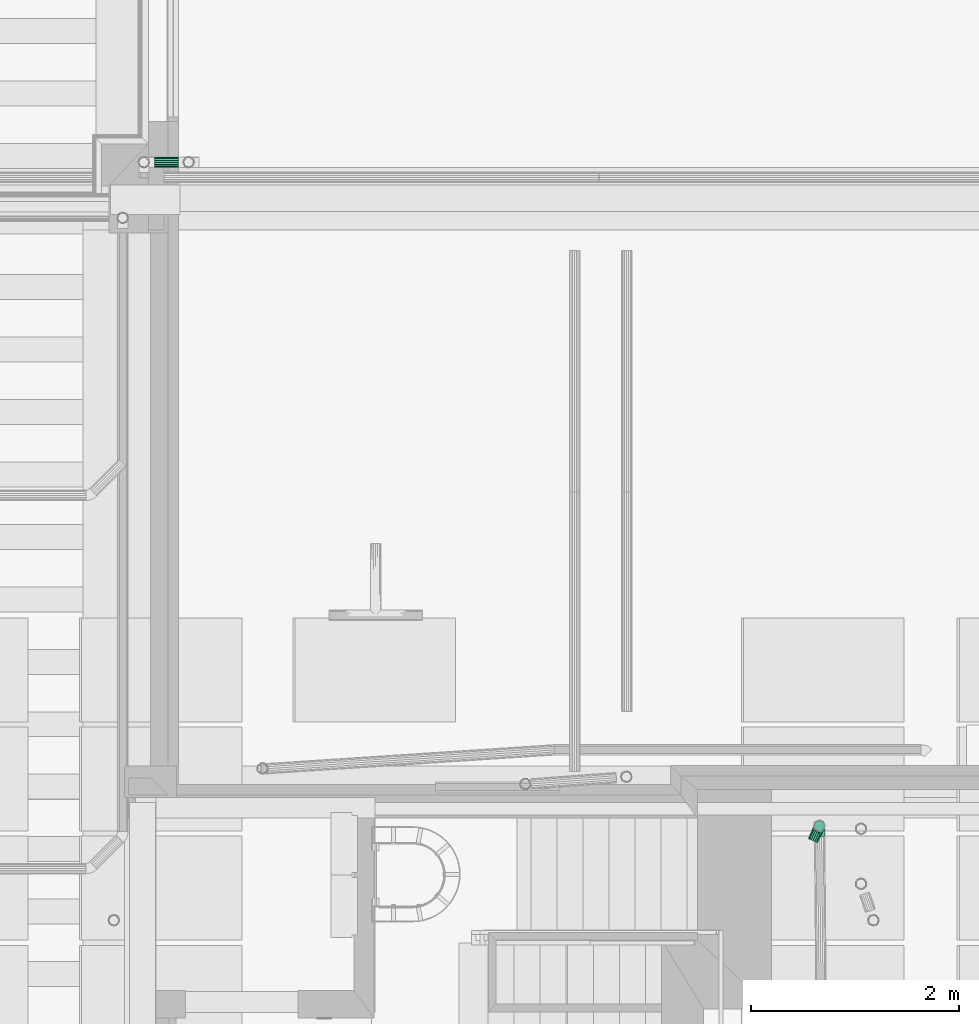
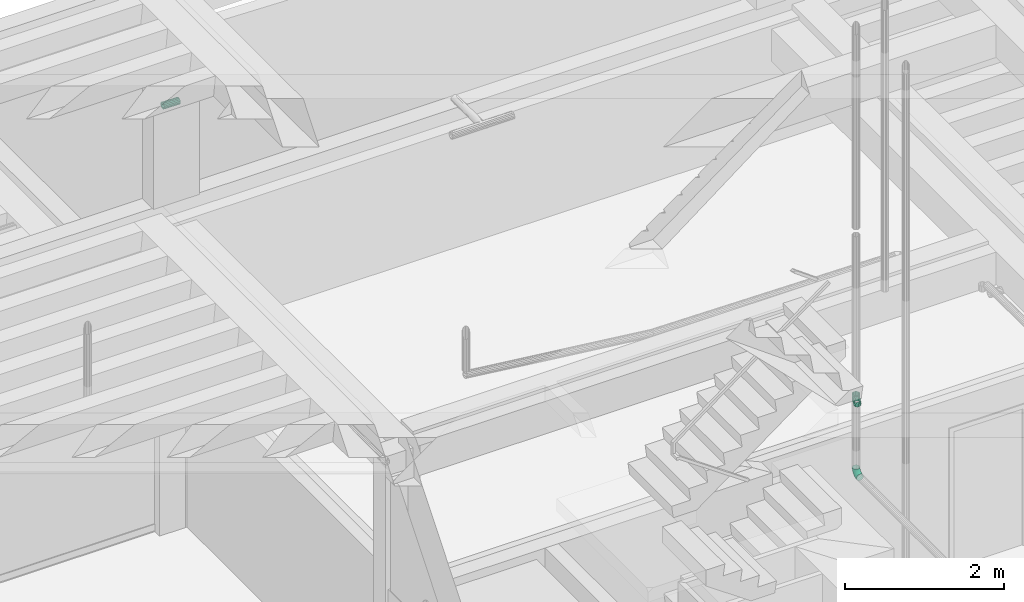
# One storey, part 87 of 106: 2 flow fittings, 2 flow segments.
"""IFC2X3 building model written with IfcOpenShell, lengths in metres."""

from ifc_helpers import new_model, entity, si_unit, converted_unit, derived_unit, money_unit, direction, frame, origin_with_axes, place, context, subcontext, project, spatial, open_shell, faceted_brep, surface_model, material, type_object, element, save


model = new_model("IFC2X3")

# Units and contexts
model_context = context("Model", 3, precision=1e-05, world=origin_with_axes(), true_north=direction((0.0, 1.0)))
body_context = subcontext(model_context, "Body", "Model", "MODEL_VIEW", scale=1.0)
ifc_project = project(units=[si_unit("LENGTHUNIT", "METRE"), si_unit("AREAUNIT", "SQUARE_METRE"), si_unit("VOLUMEUNIT", "CUBIC_METRE"), si_unit("ABSORBEDDOSEUNIT", "GRAY"), si_unit("AMOUNTOFSUBSTANCEUNIT", "MOLE"), si_unit("DOSEEQUIVALENTUNIT", "SIEVERT"), si_unit("ELECTRICCAPACITANCEUNIT", "FARAD"), si_unit("ELECTRICCHARGEUNIT", "COULOMB"), si_unit("ELECTRICCONDUCTANCEUNIT", "SIEMENS"), si_unit("ELECTRICCURRENTUNIT", "AMPERE"), si_unit("ELECTRICRESISTANCEUNIT", "OHM"), si_unit("ELECTRICVOLTAGEUNIT", "VOLT"), si_unit("ENERGYUNIT", "JOULE"), si_unit("FORCEUNIT", "NEWTON"), si_unit("FREQUENCYUNIT", "HERTZ"), si_unit("ILLUMINANCEUNIT", "LUX"), si_unit("INDUCTANCEUNIT", "HENRY"), si_unit("LUMINOUSFLUXUNIT", "LUMEN"), si_unit("LUMINOUSINTENSITYUNIT", "CANDELA"), si_unit("MAGNETICFLUXDENSITYUNIT", "TESLA"), si_unit("MAGNETICFLUXUNIT", "WEBER"), si_unit("MASSUNIT", "GRAM"), converted_unit("PLANEANGLEUNIT", "degree", entity("IfcReal", 0.0174532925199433), si_unit("PLANEANGLEUNIT", "RADIAN"), dimensions=[0, 0, 0, 0, 0, 0, 0]), si_unit("POWERUNIT", "WATT"), si_unit("PRESSUREUNIT", "PASCAL"), si_unit("RADIOACTIVITYUNIT", "BECQUEREL"), si_unit("SOLIDANGLEUNIT", "STERADIAN"), si_unit("THERMODYNAMICTEMPERATUREUNIT", "KELVIN"), si_unit("TIMEUNIT", "SECOND"), derived_unit("ACCELERATIONUNIT", [(si_unit("LENGTHUNIT", "METRE"), 1), (si_unit("TIMEUNIT", "SECOND"), -2)]), derived_unit("ANGULARVELOCITYUNIT", [(converted_unit("PLANEANGLEUNIT", "degree", entity("IfcReal", 0.0174532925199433), si_unit("PLANEANGLEUNIT", "RADIAN"), dimensions=[0, 0, 0, 0, 0, 0, 0]), 1), (si_unit("TIMEUNIT", "SECOND"), -1)]), derived_unit("CURVATUREUNIT", [(converted_unit("PLANEANGLEUNIT", "degree", entity("IfcReal", 0.0174532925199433), si_unit("PLANEANGLEUNIT", "RADIAN"), dimensions=[0, 0, 0, 0, 0, 0, 0]), 1), (si_unit("LENGTHUNIT", "METRE"), -1)]), derived_unit("DYNAMICVISCOSITYUNIT", [(si_unit("PRESSUREUNIT", "PASCAL"), 1), (si_unit("TIMEUNIT", "SECOND"), 1)]), derived_unit("HEATFLUXDENSITYUNIT", [(si_unit("POWERUNIT", "WATT"), 1), (si_unit("LENGTHUNIT", "METRE"), -2)]), derived_unit("HEATINGVALUEUNIT", [(si_unit("ENERGYUNIT", "JOULE"), 1), (si_unit("MASSUNIT", "GRAM"), -1)]), derived_unit("INTEGERCOUNTRATEUNIT", [(si_unit("TIMEUNIT", "SECOND"), -1)]), derived_unit("IONCONCENTRATIONUNIT", [(si_unit("MASSUNIT", "GRAM"), 1), (si_unit("VOLUMEUNIT", "CUBIC_METRE"), -1)]), derived_unit("ISOTHERMALMOISTURECAPACITYUNIT", [(si_unit("VOLUMEUNIT", "CUBIC_METRE"), 1), (si_unit("MASSUNIT", "GRAM"), -1)]), derived_unit("KINEMATICVISCOSITYUNIT", [(si_unit("AREAUNIT", "SQUARE_METRE"), 1), (si_unit("TIMEUNIT", "SECOND"), -1)]), derived_unit("LINEARFORCEUNIT", [(si_unit("FORCEUNIT", "NEWTON"), 1), (si_unit("LENGTHUNIT", "METRE"), -1)]), derived_unit("LINEARMOMENTUNIT", [(si_unit("FORCEUNIT", "NEWTON"), 1), (si_unit("LENGTHUNIT", "METRE"), -1)]), derived_unit("LINEARSTIFFNESSUNIT", [(si_unit("FORCEUNIT", "NEWTON"), 1), (si_unit("LENGTHUNIT", "METRE"), -1)]), derived_unit("LINEARVELOCITYUNIT", [(si_unit("LENGTHUNIT", "METRE"), 1), (si_unit("TIMEUNIT", "SECOND"), -1)]), derived_unit("LUMINOUSINTENSITYDISTRIBUTIONUNIT", [(si_unit("LUMINOUSINTENSITYUNIT", "CANDELA"), 1), (si_unit("LUMINOUSFLUXUNIT", "LUMEN"), -1)]), derived_unit("MASSDENSITYUNIT", [(si_unit("MASSUNIT", "GRAM"), 1), (si_unit("VOLUMEUNIT", "CUBIC_METRE"), -1)]), derived_unit("MASSFLOWRATEUNIT", [(si_unit("MASSUNIT", "GRAM"), 1), (si_unit("TIMEUNIT", "SECOND"), -1)]), derived_unit("MASSPERLENGTHUNIT", [(si_unit("MASSUNIT", "GRAM"), 1), (si_unit("LENGTHUNIT", "METRE"), -1)]), derived_unit("MODULUSOFELASTICITYUNIT", [(si_unit("FORCEUNIT", "NEWTON"), 1), (si_unit("AREAUNIT", "SQUARE_METRE"), -1)]), derived_unit("MODULUSOFLINEARSUBGRADEREACTIONUNIT", [(si_unit("FORCEUNIT", "NEWTON"), 1), (si_unit("LENGTHUNIT", "METRE"), -2)]), derived_unit("MODULUSOFROTATIONALSUBGRADEREACTIONUNIT", [(si_unit("FORCEUNIT", "NEWTON"), 1), (si_unit("LENGTHUNIT", "METRE"), 1)]), derived_unit("MODULUSOFSUBGRADEREACTIONUNIT", [(si_unit("FORCEUNIT", "NEWTON"), 1), (si_unit("VOLUMEUNIT", "CUBIC_METRE"), -1)]), derived_unit("MOISTUREDIFFUSIVITYUNIT", [(si_unit("VOLUMEUNIT", "CUBIC_METRE"), 1), (si_unit("TIMEUNIT", "SECOND"), -1)]), derived_unit("MOLECULARWEIGHTUNIT", [(si_unit("MASSUNIT", "GRAM"), 1), (si_unit("AMOUNTOFSUBSTANCEUNIT", "MOLE"), -1)]), derived_unit("PLANARFORCEUNIT", [(si_unit("FORCEUNIT", "NEWTON"), 1), (si_unit("LENGTHUNIT", "METRE"), -2)]), derived_unit("ROTATIONALFREQUENCYUNIT", [(si_unit("TIMEUNIT", "SECOND"), -1)]), derived_unit("ROTATIONALMASSUNIT", [(si_unit("MASSUNIT", "GRAM"), 1), (si_unit("LENGTHUNIT", "METRE"), 2)]), derived_unit("ROTATIONALSTIFFNESSUNIT", [(si_unit("FORCEUNIT", "NEWTON"), 1), (si_unit("LENGTHUNIT", "METRE"), 1), (converted_unit("PLANEANGLEUNIT", "degree", entity("IfcReal", 0.0174532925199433), si_unit("PLANEANGLEUNIT", "RADIAN"), dimensions=[0, 0, 0, 0, 0, 0, 0]), -1)]), derived_unit("SECTIONAREAINTEGRALUNIT", [(si_unit("LENGTHUNIT", "METRE"), 5)]), derived_unit("SECTIONMODULUSUNIT", [(si_unit("LENGTHUNIT", "METRE"), 3)]), derived_unit("SHEARMODULUSUNIT", [(si_unit("FORCEUNIT", "NEWTON"), 1), (si_unit("AREAUNIT", "SQUARE_METRE"), -1)]), derived_unit("SOUNDPOWERUNIT", [(si_unit("ENERGYUNIT", "JOULE"), 1), (si_unit("TIMEUNIT", "SECOND"), -1)]), derived_unit("SPECIFICHEATCAPACITYUNIT", [(si_unit("FORCEUNIT", "NEWTON"), 1), (si_unit("MASSUNIT", "GRAM"), -1), (si_unit("THERMODYNAMICTEMPERATUREUNIT", "KELVIN"), -1)]), derived_unit("TEMPERATUREGRADIENTUNIT", [(si_unit("THERMODYNAMICTEMPERATUREUNIT", "KELVIN"), 1), (si_unit("LENGTHUNIT", "METRE"), -1)]), derived_unit("THERMALADMITTANCEUNIT", [(si_unit("POWERUNIT", "WATT"), 1), (si_unit("AREAUNIT", "SQUARE_METRE"), -1), (si_unit("THERMODYNAMICTEMPERATUREUNIT", "KELVIN"), -1)]), derived_unit("THERMALCONDUCTANCEUNIT", [(si_unit("POWERUNIT", "WATT"), 1), (si_unit("LENGTHUNIT", "METRE"), -1), (si_unit("THERMODYNAMICTEMPERATUREUNIT", "KELVIN"), -1)]), derived_unit("THERMALEXPANSIONCOEFFICIENTUNIT", [(si_unit("THERMODYNAMICTEMPERATUREUNIT", "KELVIN"), -1)]), derived_unit("THERMALRESISTANCEUNIT", [(si_unit("AREAUNIT", "SQUARE_METRE"), 1), (si_unit("POWERUNIT", "WATT"), -1)]), derived_unit("THERMALTRANSMITTANCEUNIT", [(si_unit("POWERUNIT", "WATT"), 1), (si_unit("AREAUNIT", "SQUARE_METRE"), -1), (si_unit("THERMODYNAMICTEMPERATUREUNIT", "KELVIN"), -1)]), derived_unit("TORQUEUNIT", [(si_unit("FORCEUNIT", "NEWTON"), 1), (si_unit("LENGTHUNIT", "METRE"), 1)]), derived_unit("VAPORPERMEABILITYUNIT", [(si_unit("MASSUNIT", "GRAM"), 1), (si_unit("TIMEUNIT", "SECOND"), -1)]), derived_unit("VOLUMETRICFLOWRATEUNIT", [(si_unit("VOLUMEUNIT", "CUBIC_METRE"), 1), (si_unit("TIMEUNIT", "SECOND"), -1)]), derived_unit("WARPINGCONSTANTUNIT", [(si_unit("LENGTHUNIT", "METRE"), 6)]), derived_unit("WARPINGMOMENTUNIT", [(si_unit("FORCEUNIT", "NEWTON"), 1), (si_unit("LENGTHUNIT", "METRE"), 2)]), money_unit("GBP")], contexts=[model_context])

# Site, building, storey
site_placement = place(None, origin_with_axes())
site = spatial("IfcSite", under=ifc_project, at=site_placement, Name="Site", CompositionType="ELEMENT")
building_placement = place(site_placement, origin_with_axes())
building = spatial("IfcBuilding", under=site, at=building_placement, Name="Building01", CompositionType="ELEMENT")
storey_placement = place(building_placement, origin_with_axes())
storey = spatial("IfcBuildingStorey", under=building, at=storey_placement, Name="GF", CompositionType="ELEMENT", Elevation=0.0)

# Flow segments
ifc_material_1 = material(Name="M_BSUK_Ventilation")
duct_segment_type = type_object("IfcDuctSegmentType", Name="M-RoundDuct", PredefinedType="RIGIDSEGMENT")
flow_segment_1_placement = place(storey_placement, frame((15.541302, 8.430558, 3.399648), z_axis=(0.0, 0.0, -1.0), x_axis=(0.40708484, 0.91339035, 0.0)))
element("IfcFlowSegment", 1, at=flow_segment_1_placement, inside=storey, type_object=duct_segment_type, material=ifc_material_1, Name="M-RoundDuct", ObjectType="M-RoundDuct", context=body_context, shape_type="Brep", body=[
    faceted_brep([(0.1, 0.0, -0.05), (0.0, 0.0, -0.05), (0.0, 0.019134, -0.046194), (0.1, 0.019134, -0.046194), (0.0, 0.035355, -0.035355), (0.1, 0.035355, -0.035355), (0.0, 0.046194, -0.019134), (0.1, 0.046194, -0.019134), (0.0, 0.05, 0.0), (0.1, 0.05, 0.0), (0.0, 0.046194, 0.019134), (0.1, 0.046194, 0.019134), (0.0, 0.035355, 0.035355), (0.1, 0.035355, 0.035355), (0.0, 0.019134, 0.046194), (0.1, 0.019134, 0.046194), (0.0, 0.0, 0.05), (0.1, 0.0, 0.05), (0.0, -0.019134, 0.046194), (0.1, -0.019134, 0.046194), (0.0, -0.035355, 0.035355), (0.1, -0.035355, 0.035355), (0.0, -0.046194, 0.019134), (0.1, -0.046194, 0.019134), (0.0, -0.05, 0.0), (0.1, -0.05, 0.0), (0.0, -0.046194, -0.019134), (0.1, -0.046194, -0.019134), (0.0, -0.035355, -0.035355), (0.1, -0.035355, -0.035355), (0.0, -0.019134, -0.046194), (0.1, -0.019134, -0.046194)], [[[0, 1, 2, 3]], [[3, 2, 4, 5]], [[5, 4, 6, 7]], [[7, 6, 8, 9]], [[9, 8, 10, 11]], [[11, 10, 12, 13]], [[13, 12, 14, 15]], [[15, 14, 16, 17]], [[17, 16, 18, 19]], [[19, 18, 20, 21]], [[21, 20, 22, 23]], [[23, 22, 24, 25]], [[25, 24, 26, 27]], [[27, 26, 28, 29]], [[29, 28, 30, 31]], [[31, 30, 1, 0]]]),
])
ifc_material_2 = material(Name="M_BSUK_ColdWater")
pipe_segment_type = type_object("IfcPipeSegmentType", Name="M-BmpStraightpipe-DefaultPipe", PredefinedType="RIGIDSEGMENT")
flow_segment_2_placement = place(storey_placement, frame((9.210744, 14.95, 6.24673), z_axis=(0.0, 1.0, 0.0), x_axis=(0.99980004, 0.0, -0.01999682)))
element("IfcFlowSegment", 2, at=flow_segment_2_placement, inside=storey, type_object=pipe_segment_type, material=ifc_material_2, Name="M-BmpStraightpipe-DefaultPipe", ObjectType="M-BmpStraightpipe-DefaultPipe", context=body_context, shape_type="Brep", body=[
    faceted_brep([(0.234392, 0.0, -0.05), (0.0, 0.0, -0.05), (0.0, 0.019134, -0.046194), (0.234392, 0.019134, -0.046194), (0.0, 0.035355, -0.035355), (0.234392, 0.035355, -0.035355), (0.0, 0.046194, -0.019134), (0.234392, 0.046194, -0.019134), (0.0, 0.05, 0.0), (0.234392, 0.05, 0.0), (0.0, 0.046194, 0.019134), (0.234392, 0.046194, 0.019134), (0.0, 0.035355, 0.035355), (0.234392, 0.035355, 0.035355), (0.0, 0.019134, 0.046194), (0.234392, 0.019134, 0.046194), (0.0, 0.0, 0.05), (0.234392, 0.0, 0.05), (0.0, -0.019134, 0.046194), (0.234392, -0.019134, 0.046194), (0.0, -0.035355, 0.035355), (0.234392, -0.035355, 0.035355), (0.0, -0.046194, 0.019134), (0.234392, -0.046194, 0.019134), (0.0, -0.05, 0.0), (0.234392, -0.05, 0.0), (0.0, -0.046194, -0.019134), (0.234392, -0.046194, -0.019134), (0.0, -0.035355, -0.035355), (0.234392, -0.035355, -0.035355), (0.0, -0.019134, -0.046194), (0.234392, -0.019134, -0.046194)], [[[0, 1, 2, 3]], [[3, 2, 4, 5]], [[5, 4, 6, 7]], [[7, 6, 8, 9]], [[9, 8, 10, 11]], [[11, 10, 12, 13]], [[13, 12, 14, 15]], [[15, 14, 16, 17]], [[17, 16, 18, 19]], [[19, 18, 20, 21]], [[21, 20, 22, 23]], [[23, 22, 24, 25]], [[25, 24, 26, 27]], [[27, 26, 28, 29]], [[29, 28, 30, 31]], [[31, 30, 1, 0]]]),
])

# Space
space_placement = place(storey_placement, frame((9.419099, 6.725761, 0.0), z_axis=(0.0, 0.0, 1.0), x_axis=(0.0, -1.0, 0.0)))
space = spatial("IfcSpace", under=storey, at=space_placement, Name="ENTRANCE", CompositionType="ELEMENT", InteriorOrExteriorSpace="NOTDEFINED")

# Flow fittings
pipe_fitting_type_1 = type_object("IfcPipeFittingType", Name="M-BmpElbow-DefaultElbow", PredefinedType="BEND")
flow_fitting_1_placement = place(storey_placement, frame((15.604265, 8.57241, 2.325), z_axis=(-0.00898747, 0.99995961, 0.0), x_axis=(0.0, 0.0, -1.0)))
element("IfcFlowFitting", 3, at=flow_fitting_1_placement, inside=space, type_object=pipe_fitting_type_1, material=ifc_material_2, Name="M-BmpElbow-DefaultElbow", ObjectType="M-BmpElbow-DefaultElbow", context=body_context, shape_type="SurfaceModel", body=[
    surface_model("IfcShellBasedSurfaceModel", [(0.008048, -0.01349, -0.048774), (0.0, -0.01349, -0.048146), (0.0, 0.0, -0.05), (0.00776, 0.0, -0.050606), (0.0159, -0.01349, -0.050644), (0.015332, 0.0, -0.052409), (0.023368, -0.01349, -0.05371), (0.022532, 0.0, -0.055365), (0.030269, -0.01349, -0.057897), (0.029187, 0.0, -0.059403), (0.036437, -0.01349, -0.063105), (0.035134, 0.0, -0.064424), (0.041721, -0.01349, -0.069207), (0.040229, 0.0, -0.070308), (0.045995, -0.01349, -0.076055), (0.04435, 0.0, -0.076912), (0.049154, -0.01349, -0.083484), (0.047396, 0.0, -0.084074), (0.051121, -0.01349, -0.091313), (0.049293, 0.0, -0.091623), (0.05185, -0.01349, -0.099352), (0.049996, 0.0, -0.099375), (0.00889, -0.025979, -0.043415), (0.0, -0.025979, -0.042721), (0.017564, -0.025979, -0.04548), (0.025813, -0.025979, -0.048867), (0.033436, -0.025979, -0.053493), (0.040248, -0.025979, -0.059245), (0.046086, -0.025979, -0.065986), (0.050807, -0.025979, -0.07355), (0.054296, -0.025979, -0.081756), (0.056469, -0.025979, -0.090404), (0.057275, -0.025979, -0.099284), (0.010223, -0.036542, -0.034926), (0.0, -0.036542, -0.034128), (0.020199, -0.036542, -0.037301), (0.029685, -0.036542, -0.041196), (0.038452, -0.036542, -0.046515), (0.046287, -0.036542, -0.053131), (0.053, -0.036542, -0.060883), (0.058429, -0.036542, -0.069582), (0.062442, -0.036542, -0.079019), (0.064941, -0.036542, -0.088964), (0.065867, -0.036542, -0.099177), (0.01195, -0.044394, -0.023936), (0.0, -0.044394, -0.023003), (0.02361, -0.044394, -0.026712), (0.034698, -0.044394, -0.031265), (0.044946, -0.044394, -0.037483), (0.054104, -0.044394, -0.045216), (0.061951, -0.044394, -0.054277), (0.068296, -0.044394, -0.064445), (0.072987, -0.044394, -0.075476), (0.075908, -0.044394, -0.0871), (0.076991, -0.044394, -0.099038), (0.013941, -0.048954, -0.011261), (0.0, -0.048954, -0.010173), (0.027544, -0.048954, -0.0145), (0.04048, -0.048954, -0.019811), (0.052435, -0.048954, -0.027065), (0.063119, -0.048954, -0.036087), (0.072274, -0.048954, -0.046657), (0.079677, -0.048954, -0.058521), (0.085149, -0.048954, -0.071389), (0.088558, -0.048954, -0.084951), (0.08982, -0.048954, -0.098877), (0.01605, -0.049883, 0.002159), (0.0, -0.049883, 0.003412), (0.03171, -0.049883, -0.00157), (0.046602, -0.049883, -0.007684), (0.060365, -0.049883, -0.016035), (0.072665, -0.049883, -0.026421), (0.083204, -0.049883, -0.03859), (0.091727, -0.049883, -0.052247), (0.098026, -0.049883, -0.067062), (0.101951, -0.049883, -0.082675), (0.103404, -0.049883, -0.098707), (0.018119, -0.047113, 0.015329), (0.0, -0.047113, 0.016744), (0.035798, -0.047113, 0.01112), (0.05261, -0.047113, 0.004218), (0.068147, -0.047113, -0.00521), (0.082033, -0.047113, -0.016935), (0.093931, -0.047113, -0.030673), (0.103552, -0.047113, -0.046091), (0.110664, -0.047113, -0.062816), (0.115094, -0.047113, -0.080441), (0.116735, -0.047113, -0.098541), (0.019995, -0.040848, 0.027273), (0.0, -0.040848, 0.028834), (0.039505, -0.040848, 0.022628), (0.058059, -0.040848, 0.01501), (0.075205, -0.040848, 0.004606), (0.090528, -0.040848, -0.008333), (0.103658, -0.040848, -0.023494), (0.114276, -0.040848, -0.040508), (0.122124, -0.040848, -0.058965), (0.127013, -0.040848, -0.078416), (0.128824, -0.040848, -0.09839), (0.021539, -0.031554, 0.037104), (0.0, -0.031554, 0.038786), (0.042557, -0.031554, 0.0321), (0.062543, -0.031554, 0.023894), (0.081014, -0.031554, 0.012686), (0.097521, -0.031554, -0.001252), (0.111665, -0.031554, -0.017584), (0.123103, -0.031554, -0.035913), (0.131557, -0.031554, -0.055795), (0.136824, -0.031554, -0.076749), (0.138775, -0.031554, -0.098265), (0.022638, -0.01992, 0.044093), (0.0, -0.01992, 0.045861), (0.044726, -0.01992, 0.038834), (0.065732, -0.01992, 0.03021), (0.085144, -0.01992, 0.018431), (0.102492, -0.01992, 0.003782), (0.117357, -0.01992, -0.013383), (0.129378, -0.01992, -0.032646), (0.138264, -0.01992, -0.053542), (0.143799, -0.01992, -0.075563), (0.145849, -0.01992, -0.098177), (0.023208, -0.006808, 0.047722), (0.0, -0.006808, 0.049534), (0.045853, -0.006808, 0.042331), (0.067387, -0.006808, 0.03349), (0.087288, -0.006808, 0.021414), (0.105074, -0.006808, 0.006395), (0.120313, -0.006808, -0.011201), (0.132637, -0.006808, -0.03095), (0.141746, -0.006808, -0.052372), (0.147421, -0.006808, -0.074948), (0.149523, -0.006808, -0.098131), (0.023208, 0.006808, 0.047722), (0.0, 0.006808, 0.049534), (0.045853, 0.006808, 0.042331), (0.067387, 0.006808, 0.03349), (0.087288, 0.006808, 0.021414), (0.105074, 0.006808, 0.006395), (0.120313, 0.006808, -0.011201), (0.132637, 0.006808, -0.03095), (0.141746, 0.006808, -0.052372), (0.147421, 0.006808, -0.074948), (0.149523, 0.006808, -0.098131), (0.022638, 0.01992, 0.044093), (0.0, 0.01992, 0.045861), (0.044726, 0.01992, 0.038834), (0.065732, 0.01992, 0.03021), (0.085144, 0.01992, 0.018431), (0.102492, 0.01992, 0.003782), (0.117357, 0.01992, -0.013383), (0.129378, 0.01992, -0.032646), (0.138264, 0.01992, -0.053542), (0.143799, 0.01992, -0.075563), (0.145849, 0.01992, -0.098177), (0.021539, 0.031554, 0.037104), (0.0, 0.031554, 0.038786), (0.042557, 0.031554, 0.0321), (0.062543, 0.031554, 0.023894), (0.081014, 0.031554, 0.012686), (0.097521, 0.031554, -0.001252), (0.111665, 0.031554, -0.017584), (0.123103, 0.031554, -0.035913), (0.131557, 0.031554, -0.055795), (0.136824, 0.031554, -0.076749), (0.138775, 0.031554, -0.098265), (0.019995, 0.040848, 0.027273), (0.0, 0.040848, 0.028834), (0.039505, 0.040848, 0.022628), (0.058059, 0.040848, 0.01501), (0.075205, 0.040848, 0.004606), (0.090528, 0.040848, -0.008333), (0.103658, 0.040848, -0.023494), (0.114276, 0.040848, -0.040508), (0.122124, 0.040848, -0.058965), (0.127013, 0.040848, -0.078416), (0.128824, 0.040848, -0.09839), (0.018119, 0.047113, 0.015329), (0.0, 0.047113, 0.016744), (0.035798, 0.047113, 0.01112), (0.05261, 0.047113, 0.004218), (0.068147, 0.047113, -0.00521), (0.082033, 0.047113, -0.016935), (0.093931, 0.047113, -0.030673), (0.103552, 0.047113, -0.046091), (0.110664, 0.047113, -0.062816), (0.115094, 0.047113, -0.080441), (0.116735, 0.047113, -0.098541), (0.01605, 0.049883, 0.002159), (0.0, 0.049883, 0.003412), (0.03171, 0.049883, -0.00157), (0.046602, 0.049883, -0.007684), (0.060365, 0.049883, -0.016035), (0.072665, 0.049883, -0.026421), (0.083204, 0.049883, -0.03859), (0.091727, 0.049883, -0.052247), (0.098026, 0.049883, -0.067062), (0.101951, 0.049883, -0.082675), (0.103404, 0.049883, -0.098707), (0.013941, 0.048954, -0.011261), (0.0, 0.048954, -0.010173), (0.027544, 0.048954, -0.0145), (0.04048, 0.048954, -0.019811), (0.052435, 0.048954, -0.027065), (0.063119, 0.048954, -0.036087), (0.072274, 0.048954, -0.046657), (0.079677, 0.048954, -0.058521), (0.085149, 0.048954, -0.071389), (0.088558, 0.048954, -0.084951), (0.08982, 0.048954, -0.098877), (0.01195, 0.044394, -0.023936), (0.0, 0.044394, -0.023003), (0.02361, 0.044394, -0.026712), (0.034698, 0.044394, -0.031265), (0.044946, 0.044394, -0.037483), (0.054104, 0.044394, -0.045216), (0.061951, 0.044394, -0.054277), (0.068296, 0.044394, -0.064445), (0.072987, 0.044394, -0.075476), (0.075908, 0.044394, -0.0871), (0.076991, 0.044394, -0.099038), (0.010223, 0.036542, -0.034926), (0.0, 0.036542, -0.034128), (0.020199, 0.036542, -0.037301), (0.029685, 0.036542, -0.041196), (0.038452, 0.036542, -0.046515), (0.046287, 0.036542, -0.053131), (0.053, 0.036542, -0.060883), (0.058429, 0.036542, -0.069582), (0.062442, 0.036542, -0.079019), (0.064941, 0.036542, -0.088964), (0.065867, 0.036542, -0.099177), (0.00889, 0.025979, -0.043415), (0.0, 0.025979, -0.042721), (0.017564, 0.025979, -0.04548), (0.025813, 0.025979, -0.048867), (0.033436, 0.025979, -0.053493), (0.040248, 0.025979, -0.059245), (0.046086, 0.025979, -0.065986), (0.050807, 0.025979, -0.07355), (0.054296, 0.025979, -0.081756), (0.056469, 0.025979, -0.090404), (0.057275, 0.025979, -0.099284), (0.008048, 0.01349, -0.048774), (0.0, 0.01349, -0.048146), (0.0159, 0.01349, -0.050644), (0.023368, 0.01349, -0.05371), (0.030269, 0.01349, -0.057897), (0.036437, 0.01349, -0.063105), (0.041721, 0.01349, -0.069207), (0.045995, 0.01349, -0.076055), (0.049154, 0.01349, -0.083484), (0.051121, 0.01349, -0.091313), (0.05185, 0.01349, -0.099352)], [open_shell([[[0, 1, 2, 3]], [[4, 0, 3, 5]], [[6, 4, 5, 7]], [[8, 6, 7, 9]], [[10, 8, 9, 11]], [[12, 10, 11, 13]], [[14, 12, 13, 15]], [[16, 14, 15, 17]], [[18, 16, 17, 19]], [[20, 18, 19, 21]], [[22, 23, 1, 0]], [[24, 22, 0, 4]], [[25, 24, 4, 6]], [[26, 25, 6, 8]], [[27, 26, 8, 10]], [[28, 27, 10, 12]], [[29, 28, 12, 14]], [[30, 29, 14, 16]], [[31, 30, 16, 18]], [[32, 31, 18, 20]], [[33, 34, 23, 22]], [[35, 33, 22, 24]], [[36, 35, 24, 25]], [[37, 36, 25, 26]], [[38, 37, 26, 27]], [[39, 38, 27, 28]], [[40, 39, 28, 29]], [[41, 40, 29, 30]], [[42, 41, 30, 31]], [[43, 42, 31, 32]], [[44, 45, 34, 33]], [[46, 44, 33, 35]], [[47, 46, 35, 36]], [[48, 47, 36, 37]], [[49, 48, 37, 38]], [[50, 49, 38, 39]], [[51, 50, 39, 40]], [[52, 51, 40, 41]], [[53, 52, 41, 42]], [[54, 53, 42, 43]], [[55, 56, 45, 44]], [[57, 55, 44, 46]], [[58, 57, 46, 47]], [[59, 58, 47, 48]], [[60, 59, 48, 49]], [[61, 60, 49, 50]], [[62, 61, 50, 51]], [[63, 62, 51, 52]], [[64, 63, 52, 53]], [[65, 64, 53, 54]], [[66, 67, 56, 55]], [[68, 66, 55, 57]], [[69, 68, 57, 58]], [[70, 69, 58, 59]], [[71, 70, 59, 60]], [[72, 71, 60, 61]], [[73, 72, 61, 62]], [[74, 73, 62, 63]], [[75, 74, 63, 64]], [[76, 75, 64, 65]], [[77, 78, 67, 66]], [[79, 77, 66, 68]], [[80, 79, 68, 69]], [[81, 80, 69, 70]], [[82, 81, 70, 71]], [[83, 82, 71, 72]], [[84, 83, 72, 73]], [[85, 84, 73, 74]], [[86, 85, 74, 75]], [[87, 86, 75, 76]], [[88, 89, 78, 77]], [[90, 88, 77, 79]], [[91, 90, 79, 80]], [[92, 91, 80, 81]], [[93, 92, 81, 82]], [[94, 93, 82, 83]], [[95, 94, 83, 84]], [[96, 95, 84, 85]], [[97, 96, 85, 86]], [[98, 97, 86, 87]], [[99, 100, 89, 88]], [[101, 99, 88, 90]], [[102, 101, 90, 91]], [[103, 102, 91, 92]], [[104, 103, 92, 93]], [[105, 104, 93, 94]], [[106, 105, 94, 95]], [[107, 106, 95, 96]], [[108, 107, 96, 97]], [[109, 108, 97, 98]], [[110, 111, 100, 99]], [[112, 110, 99, 101]], [[113, 112, 101, 102]], [[114, 113, 102, 103]], [[115, 114, 103, 104]], [[116, 115, 104, 105]], [[117, 116, 105, 106]], [[118, 117, 106, 107]], [[119, 118, 107, 108]], [[120, 119, 108, 109]], [[121, 122, 111, 110]], [[123, 121, 110, 112]], [[124, 123, 112, 113]], [[125, 124, 113, 114]], [[126, 125, 114, 115]], [[127, 126, 115, 116]], [[128, 127, 116, 117]], [[129, 128, 117, 118]], [[130, 129, 118, 119]], [[131, 130, 119, 120]], [[132, 133, 122, 121]], [[134, 132, 121, 123]], [[135, 134, 123, 124]], [[136, 135, 124, 125]], [[137, 136, 125, 126]], [[138, 137, 126, 127]], [[139, 138, 127, 128]], [[140, 139, 128, 129]], [[141, 140, 129, 130]], [[142, 141, 130, 131]], [[143, 144, 133, 132]], [[145, 143, 132, 134]], [[146, 145, 134, 135]], [[147, 146, 135, 136]], [[148, 147, 136, 137]], [[149, 148, 137, 138]], [[150, 149, 138, 139]], [[151, 150, 139, 140]], [[152, 151, 140, 141]], [[153, 152, 141, 142]], [[154, 155, 144, 143]], [[156, 154, 143, 145]], [[157, 156, 145, 146]], [[158, 157, 146, 147]], [[159, 158, 147, 148]], [[160, 159, 148, 149]], [[161, 160, 149, 150]], [[162, 161, 150, 151]], [[163, 162, 151, 152]], [[164, 163, 152, 153]], [[165, 166, 155, 154]], [[167, 165, 154, 156]], [[168, 167, 156, 157]], [[169, 168, 157, 158]], [[170, 169, 158, 159]], [[171, 170, 159, 160]], [[172, 171, 160, 161]], [[173, 172, 161, 162]], [[174, 173, 162, 163]], [[175, 174, 163, 164]], [[176, 177, 166, 165]], [[178, 176, 165, 167]], [[179, 178, 167, 168]], [[180, 179, 168, 169]], [[181, 180, 169, 170]], [[182, 181, 170, 171]], [[183, 182, 171, 172]], [[184, 183, 172, 173]], [[185, 184, 173, 174]], [[186, 185, 174, 175]], [[187, 188, 177, 176]], [[189, 187, 176, 178]], [[190, 189, 178, 179]], [[191, 190, 179, 180]], [[192, 191, 180, 181]], [[193, 192, 181, 182]], [[194, 193, 182, 183]], [[195, 194, 183, 184]], [[196, 195, 184, 185]], [[197, 196, 185, 186]], [[198, 199, 188, 187]], [[200, 198, 187, 189]], [[201, 200, 189, 190]], [[202, 201, 190, 191]], [[203, 202, 191, 192]], [[204, 203, 192, 193]], [[205, 204, 193, 194]], [[206, 205, 194, 195]], [[207, 206, 195, 196]], [[208, 207, 196, 197]], [[209, 210, 199, 198]], [[211, 209, 198, 200]], [[212, 211, 200, 201]], [[213, 212, 201, 202]], [[214, 213, 202, 203]], [[215, 214, 203, 204]], [[216, 215, 204, 205]], [[217, 216, 205, 206]], [[218, 217, 206, 207]], [[219, 218, 207, 208]], [[220, 221, 210, 209]], [[222, 220, 209, 211]], [[223, 222, 211, 212]], [[224, 223, 212, 213]], [[225, 224, 213, 214]], [[226, 225, 214, 215]], [[227, 226, 215, 216]], [[228, 227, 216, 217]], [[229, 228, 217, 218]], [[230, 229, 218, 219]], [[231, 232, 221, 220]], [[233, 231, 220, 222]], [[234, 233, 222, 223]], [[235, 234, 223, 224]], [[236, 235, 224, 225]], [[237, 236, 225, 226]], [[238, 237, 226, 227]], [[239, 238, 227, 228]], [[240, 239, 228, 229]], [[241, 240, 229, 230]], [[242, 243, 232, 231]], [[244, 242, 231, 233]], [[245, 244, 233, 234]], [[246, 245, 234, 235]], [[247, 246, 235, 236]], [[248, 247, 236, 237]], [[249, 248, 237, 238]], [[250, 249, 238, 239]], [[251, 250, 239, 240]], [[252, 251, 240, 241]], [[3, 2, 243, 242]], [[5, 3, 242, 244]], [[7, 5, 244, 245]], [[9, 7, 245, 246]], [[11, 9, 246, 247]], [[13, 11, 247, 248]], [[15, 13, 248, 249]], [[17, 15, 249, 250]], [[19, 17, 250, 251]], [[21, 19, 251, 252]]])]),
])
pipe_fitting_type_2 = type_object("IfcPipeFittingType", Name="M-BmpTee-DefaultTee", PredefinedType="JUNCTION")
flow_fitting_2_placement = place(storey_placement, frame((15.604265, 8.57241, 3.349919), z_axis=(0.39563745, 0.91840678, 0.0), x_axis=(0.0, 0.0, 1.0)))
element("IfcFlowFitting", 4, at=flow_fitting_2_placement, inside=space, type_object=pipe_fitting_type_2, material=ifc_material_2, Name="M-BmpTee-DefaultTee", ObjectType="M-BmpTee-DefaultTee", context=body_context, shape_type="SurfaceModel", body=[
    surface_model("IfcShellBasedSurfaceModel", [(0.068757, 0.046194, -0.019134), (0.06921, 0.046194, -0.055386), (0.050077, 0.05, -0.055626), (0.085182, 0.035355, -0.035355), (0.08543, 0.035355, -0.055184), (0.096157, 0.019134, -0.046194), (0.096268, 0.019134, -0.055048), (0.099038, 0.009755, -0.049039), (0.100011, 0.0, -0.05), (0.100073, 0.0, -0.055001), (0.099038, -0.009755, -0.049039), (0.096157, -0.019134, -0.046194), (0.096268, -0.019134, -0.055048), (0.091478, -0.027779, -0.041573), (0.085182, -0.035355, -0.035355), (0.08543, -0.035355, -0.055184), (0.07751, -0.041573, -0.027779), (0.068757, -0.046194, -0.019134), (0.06921, -0.046194, -0.055386), (0.059259, -0.049039, -0.009755), (0.049382, -0.05, 0.0), (0.050077, -0.05, -0.055626), (0.030485, -0.046194, -0.019134), (0.030945, -0.046194, -0.055865), (0.014466, -0.035355, -0.035355), (0.014725, -0.035355, -0.056067), (0.003762, -0.019134, -0.046194), (0.003887, -0.019134, -0.056203), (0.000952, -0.009755, -0.049039), (3e-06, 0.0, -0.05), (8.1e-05, 0.0, -0.056251), (0.000952, 0.009755, -0.049039), (0.003762, 0.019134, -0.046194), (0.003887, 0.019134, -0.056203), (0.008325, 0.027779, -0.041573), (0.014466, 0.035355, -0.035355), (0.014725, 0.035355, -0.056067), (0.021948, 0.041573, -0.027779), (0.030485, 0.046194, -0.019134), (0.030945, 0.046194, -0.055865), (0.039749, 0.049039, -0.009755), (0.049382, 0.05, 0.0), (0.008325, -0.027779, -0.041573), (0.021948, -0.041573, -0.027779), (0.039749, -0.049039, -0.009755), (0.091478, 0.027779, -0.041573), (0.07751, 0.041573, -0.027779), (0.059259, 0.049039, -0.009755), (-0.005, -0.05, 0.0), (0.105012, -0.05, 0.0), (0.105012, -0.046194, 0.019134), (-0.005, -0.046194, 0.019134), (0.105012, -0.035355, 0.035355), (-0.005, -0.035355, 0.035355), (0.105012, -0.019134, 0.046194), (-0.005, -0.019134, 0.046194), (0.105012, 0.0, 0.05), (-0.005, 0.0, 0.05), (0.105012, 0.019134, 0.046194), (-0.005, 0.019134, 0.046194), (0.105012, 0.035355, 0.035355), (-0.005, 0.035355, 0.035355), (0.105012, 0.046194, 0.019134), (-0.005, 0.046194, 0.019134), (0.105012, 0.05, 0.0), (-0.005, 0.05, 0.0), (0.105012, -0.046194, -0.019134), (0.105012, -0.035355, -0.035355), (0.105012, -0.019134, -0.046194), (0.105012, 0.0, -0.05), (0.105012, 0.019134, -0.046194), (0.105012, 0.035355, -0.035355), (0.105012, 0.046194, -0.019134), (-0.005, 0.046194, -0.019134), (-0.005, 0.035355, -0.035355), (-0.005, 0.019134, -0.046194), (-0.005, 0.0, -0.05), (-0.005, -0.019134, -0.046194), (-0.005, -0.035355, -0.035355), (-0.005, -0.046194, -0.019134)], [open_shell([[[0, 1, 2]], [[3, 4, 1]], [[5, 6, 4]], [[7, 8, 9]], [[10, 11, 12]], [[13, 14, 15]], [[16, 17, 18]], [[19, 20, 21]], [[22, 23, 21]], [[24, 25, 23]], [[26, 27, 25]], [[28, 29, 30]], [[31, 32, 33]], [[34, 35, 36]], [[37, 38, 39]], [[40, 41, 2]], [[38, 40, 2]], [[2, 39, 38]], [[35, 37, 39]], [[39, 36, 35]], [[32, 34, 36]], [[36, 33, 32]], [[31, 33, 30]], [[30, 29, 31]], [[27, 26, 28]], [[30, 27, 28]], [[25, 24, 42]], [[25, 42, 26]], [[23, 22, 43]], [[23, 43, 24]], [[21, 20, 44]], [[21, 44, 22]], [[17, 19, 21]], [[21, 18, 17]], [[14, 16, 18]], [[18, 15, 14]], [[11, 13, 15]], [[15, 12, 11]], [[10, 12, 9]], [[9, 8, 10]], [[6, 5, 7]], [[9, 6, 7]], [[4, 3, 45]], [[4, 45, 5]], [[1, 0, 46]], [[1, 46, 3]], [[2, 41, 47]], [[2, 47, 0]], [[48, 20, 49, 50, 51]], [[51, 50, 52, 53]], [[53, 52, 54, 55]], [[55, 54, 56, 57]], [[57, 56, 58, 59]], [[59, 58, 60, 61]], [[61, 60, 62, 63]], [[63, 62, 64, 41, 65]], [[17, 66, 49]], [[14, 67, 66]], [[11, 68, 67]], [[10, 8, 69]], [[7, 5, 70]], [[45, 3, 71]], [[46, 0, 72]], [[47, 41, 64]], [[38, 73, 65]], [[35, 74, 73]], [[32, 75, 74]], [[31, 29, 76]], [[28, 26, 77]], [[42, 24, 78]], [[43, 22, 79]], [[44, 20, 48]], [[22, 44, 48]], [[48, 79, 22]], [[24, 43, 79]], [[79, 78, 24]], [[26, 42, 78]], [[78, 77, 26]], [[28, 77, 76]], [[76, 29, 28]], [[75, 32, 31]], [[76, 75, 31]], [[74, 35, 34]], [[74, 34, 32]], [[73, 38, 37]], [[73, 37, 35]], [[65, 41, 40]], [[65, 40, 38]], [[0, 47, 64]], [[64, 72, 0]], [[3, 46, 72]], [[72, 71, 3]], [[5, 45, 71]], [[71, 70, 5]], [[7, 70, 69]], [[69, 8, 7]], [[68, 11, 10]], [[69, 68, 10]], [[67, 14, 13]], [[67, 13, 11]], [[66, 17, 16]], [[66, 16, 14]], [[49, 20, 19]], [[49, 19, 17]]])]),
])

save(model, "model.ifc")
